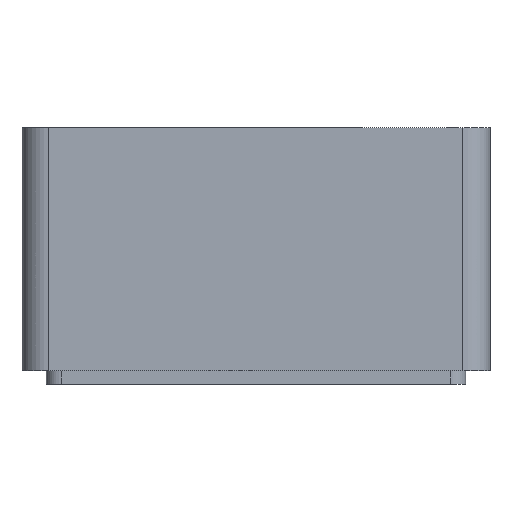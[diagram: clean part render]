
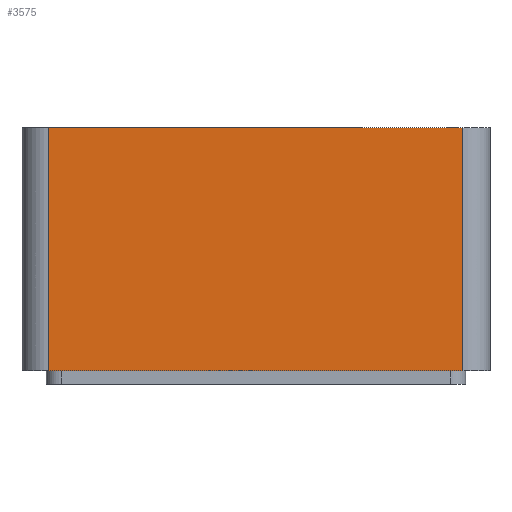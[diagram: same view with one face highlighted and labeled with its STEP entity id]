
A CAD part, front view. The second image highlights one B-rep face of the part: STEP entity #3575.
In plain terms, the highlighted planar face has unit normal (0, -1, 0).
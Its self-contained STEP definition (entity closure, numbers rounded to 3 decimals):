
#70 = PLANE('',#71);
#71 = AXIS2_PLACEMENT_3D('',#72,#73,#74);
#72 = CARTESIAN_POINT('',(102.,1.,114.));
#73 = DIRECTION('',(0.,0.,1.));
#74 = DIRECTION('',(1.,0.,-0.));
#98 = CYLINDRICAL_SURFACE('',#99,6.);
#99 = AXIS2_PLACEMENT_3D('',#100,#101,#102);
#100 = CARTESIAN_POINT('',(108.,7.,60.));
#101 = DIRECTION('',(0.,0.,1.));
#102 = DIRECTION('',(-1.,-0.,0.));
#124 = PLANE('',#125);
#125 = AXIS2_PLACEMENT_3D('',#126,#127,#128);
#126 = CARTESIAN_POINT('',(102.,1.,60.));
#127 = DIRECTION('',(0.,0.,1.));
#128 = DIRECTION('',(1.,0.,-0.));
#423 = VERTEX_POINT('',#424);
#424 = CARTESIAN_POINT('',(108.,1.,60.));
#446 = EDGE_CURVE('',#423,#447,#449,.T.);
#447 = VERTEX_POINT('',#448);
#448 = CARTESIAN_POINT('',(200.,1.,60.));
#449 = SURFACE_CURVE('',#450,(#454,#461),.PCURVE_S1.);
#450 = LINE('',#451,#452);
#451 = CARTESIAN_POINT('',(102.,1.,60.));
#452 = VECTOR('',#453,1.);
#453 = DIRECTION('',(1.,0.,-0.));
#454 = PCURVE('',#124,#455);
#455 = DEFINITIONAL_REPRESENTATION('',(#456),#460);
#456 = LINE('',#457,#458);
#457 = CARTESIAN_POINT('',(0.,0.));
#458 = VECTOR('',#459,1.);
#459 = DIRECTION('',(1.,0.));
#460 = ( GEOMETRIC_REPRESENTATION_CONTEXT(2)
PARAMETRIC_REPRESENTATION_CONTEXT() REPRESENTATION_CONTEXT('2D SPACE',''
  ) );
#461 = PCURVE('',#462,#467);
#462 = PLANE('',#463);
#463 = AXIS2_PLACEMENT_3D('',#464,#465,#466);
#464 = CARTESIAN_POINT('',(102.,1.,60.));
#465 = DIRECTION('',(-0.,1.,0.));
#466 = DIRECTION('',(0.,0.,1.));
#467 = DEFINITIONAL_REPRESENTATION('',(#468),#472);
#468 = LINE('',#469,#470);
#469 = CARTESIAN_POINT('',(0.,0.));
#470 = VECTOR('',#471,1.);
#471 = DIRECTION('',(0.,1.));
#472 = ( GEOMETRIC_REPRESENTATION_CONTEXT(2)
PARAMETRIC_REPRESENTATION_CONTEXT() REPRESENTATION_CONTEXT('2D SPACE',''
  ) );
#495 = CYLINDRICAL_SURFACE('',#496,6.);
#496 = AXIS2_PLACEMENT_3D('',#497,#498,#499);
#497 = CARTESIAN_POINT('',(200.,7.,63.));
#498 = DIRECTION('',(0.,0.,1.));
#499 = DIRECTION('',(1.,0.,-0.));
#818 = EDGE_CURVE('',#423,#819,#821,.T.);
#819 = VERTEX_POINT('',#820);
#820 = CARTESIAN_POINT('',(108.,1.,114.));
#821 = SURFACE_CURVE('',#822,(#826,#833),.PCURVE_S1.);
#822 = LINE('',#823,#824);
#823 = CARTESIAN_POINT('',(108.,1.,60.));
#824 = VECTOR('',#825,1.);
#825 = DIRECTION('',(0.,0.,1.));
#826 = PCURVE('',#98,#827);
#827 = DEFINITIONAL_REPRESENTATION('',(#828),#832);
#828 = LINE('',#829,#830);
#829 = CARTESIAN_POINT('',(1.571,0.));
#830 = VECTOR('',#831,1.);
#831 = DIRECTION('',(0.,1.));
#832 = ( GEOMETRIC_REPRESENTATION_CONTEXT(2)
PARAMETRIC_REPRESENTATION_CONTEXT() REPRESENTATION_CONTEXT('2D SPACE',''
  ) );
#833 = PCURVE('',#462,#834);
#834 = DEFINITIONAL_REPRESENTATION('',(#835),#839);
#835 = LINE('',#836,#837);
#836 = CARTESIAN_POINT('',(0.,6.));
#837 = VECTOR('',#838,1.);
#838 = DIRECTION('',(1.,0.));
#839 = ( GEOMETRIC_REPRESENTATION_CONTEXT(2)
PARAMETRIC_REPRESENTATION_CONTEXT() REPRESENTATION_CONTEXT('2D SPACE',''
  ) );
#868 = EDGE_CURVE('',#819,#869,#871,.T.);
#869 = VERTEX_POINT('',#870);
#870 = CARTESIAN_POINT('',(200.,1.,114.));
#871 = SURFACE_CURVE('',#872,(#876,#883),.PCURVE_S1.);
#872 = LINE('',#873,#874);
#873 = CARTESIAN_POINT('',(102.,1.,114.));
#874 = VECTOR('',#875,1.);
#875 = DIRECTION('',(1.,0.,-0.));
#876 = PCURVE('',#70,#877);
#877 = DEFINITIONAL_REPRESENTATION('',(#878),#882);
#878 = LINE('',#879,#880);
#879 = CARTESIAN_POINT('',(0.,0.));
#880 = VECTOR('',#881,1.);
#881 = DIRECTION('',(1.,0.));
#882 = ( GEOMETRIC_REPRESENTATION_CONTEXT(2)
PARAMETRIC_REPRESENTATION_CONTEXT() REPRESENTATION_CONTEXT('2D SPACE',''
  ) );
#883 = PCURVE('',#462,#884);
#884 = DEFINITIONAL_REPRESENTATION('',(#885),#889);
#885 = LINE('',#886,#887);
#886 = CARTESIAN_POINT('',(54.,0.));
#887 = VECTOR('',#888,1.);
#888 = DIRECTION('',(0.,1.));
#889 = ( GEOMETRIC_REPRESENTATION_CONTEXT(2)
PARAMETRIC_REPRESENTATION_CONTEXT() REPRESENTATION_CONTEXT('2D SPACE',''
  ) );
#3554 = EDGE_CURVE('',#447,#869,#3555,.T.);
#3555 = SURFACE_CURVE('',#3556,(#3560,#3567),.PCURVE_S1.);
#3556 = LINE('',#3557,#3558);
#3557 = CARTESIAN_POINT('',(200.,1.,60.));
#3558 = VECTOR('',#3559,1.);
#3559 = DIRECTION('',(0.,0.,1.));
#3560 = PCURVE('',#495,#3561);
#3561 = DEFINITIONAL_REPRESENTATION('',(#3562),#3566);
#3562 = LINE('',#3563,#3564);
#3563 = CARTESIAN_POINT('',(-1.571,-3.));
#3564 = VECTOR('',#3565,1.);
#3565 = DIRECTION('',(-0.,1.));
#3566 = ( GEOMETRIC_REPRESENTATION_CONTEXT(2)
PARAMETRIC_REPRESENTATION_CONTEXT() REPRESENTATION_CONTEXT('2D SPACE',''
  ) );
#3567 = PCURVE('',#462,#3568);
#3568 = DEFINITIONAL_REPRESENTATION('',(#3569),#3573);
#3569 = LINE('',#3570,#3571);
#3570 = CARTESIAN_POINT('',(0.,98.));
#3571 = VECTOR('',#3572,1.);
#3572 = DIRECTION('',(1.,0.));
#3573 = ( GEOMETRIC_REPRESENTATION_CONTEXT(2)
PARAMETRIC_REPRESENTATION_CONTEXT() REPRESENTATION_CONTEXT('2D SPACE',''
  ) );
#3575 = ADVANCED_FACE('',(#3576),#462,.F.);
#3576 = FACE_BOUND('',#3577,.F.);
#3577 = EDGE_LOOP('',(#3578,#3579,#3580,#3581));
#3578 = ORIENTED_EDGE('',*,*,#3554,.F.);
#3579 = ORIENTED_EDGE('',*,*,#446,.F.);
#3580 = ORIENTED_EDGE('',*,*,#818,.T.);
#3581 = ORIENTED_EDGE('',*,*,#868,.T.);
